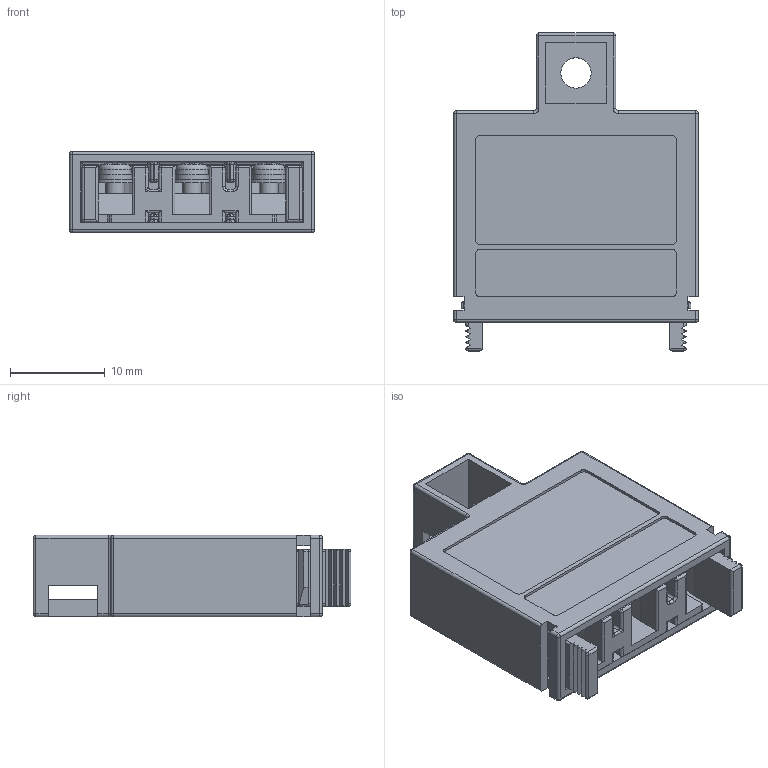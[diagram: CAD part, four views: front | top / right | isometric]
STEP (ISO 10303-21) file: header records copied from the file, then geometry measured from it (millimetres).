
FILE_DESCRIPTION(('Creo Elements/Direct Modeling STEP Export'),'2;1');
FILE_NAME('OA-QTM32.stp','2014-02-07T15:37:54',(''),(''),'Creo Elements/Direct Modeling STEP processor for AP214 (Solid Model)','Creo Elements/Direct Modeling 18.1B 29-Sep-2012 (C) Parametric Technology GmbH','');
FILE_SCHEMA(('AUTOMOTIVE_DESIGN { 1 0 10303 214 1 1 1 1 }'));
Length unit declared in the file: millimetre
Products named in the file (4): 本体; ねじ.1.1; ケース; OA-QTM32
Assembly tree (5 placements, depth 2):
  OA-QTM32
    ねじ.1.1  x3
    ケース
    本体
Bounding box: 25.8 x 33.5 x 8.6 mm (x, y, z)
Volume: 3524.7 mm3; surface area: 6573.4 mm2
Topology: 5 solids, 5 shells, 675 faces, 1762 edges, 1057 vertices
Faces by surface type: plane 328, cylinder 229, sphere 54, cone 30, torus 28, bspline 6
Entity records: 18433 total; most frequent: CARTESIAN_POINT 3600, ORIENTED_EDGE 3076, DIRECTION 2992, EDGE_CURVE 1538, VECTOR 1026, LINE 1026, AXIS2_PLACEMENT_3D 983, VERTEX_POINT 947
